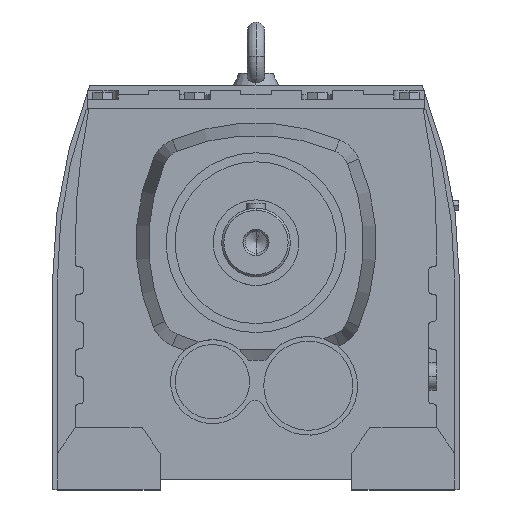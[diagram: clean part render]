
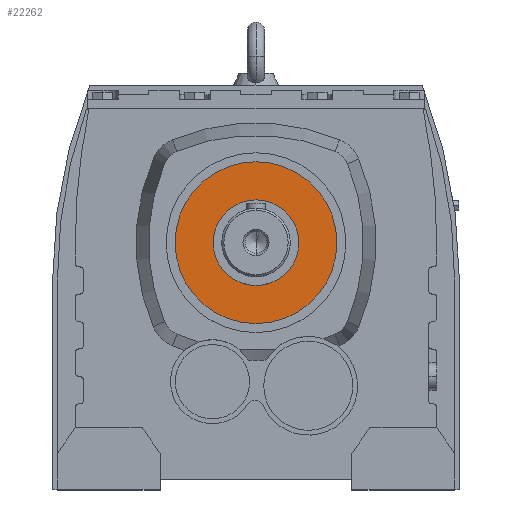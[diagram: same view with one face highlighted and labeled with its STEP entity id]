
A CAD part, top view. The second image highlights one B-rep face of the part: STEP entity #22262.
In plain terms, the highlighted planar face has unit normal (0, 0, 1).
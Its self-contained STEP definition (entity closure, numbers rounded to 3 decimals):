
#20385 = CYLINDRICAL_SURFACE('',#20386,59.063);
#20386 = AXIS2_PLACEMENT_3D('',#20387,#20388,#20389);
#20387 = CARTESIAN_POINT('',(0.,12.6,372.));
#20388 = DIRECTION('',(0.,0.,1.));
#20389 = DIRECTION('',(0.,-1.,0.));
#20415 = CYLINDRICAL_SURFACE('',#20416,59.063);
#20416 = AXIS2_PLACEMENT_3D('',#20417,#20418,#20419);
#20417 = CARTESIAN_POINT('',(0.,12.6,372.));
#20418 = DIRECTION('',(0.,0.,1.));
#20419 = DIRECTION('',(0.,-1.,0.));
#21412 = VERTEX_POINT('',#21413);
#21413 = CARTESIAN_POINT('',(0.,71.663,262.));
#21434 = VERTEX_POINT('',#21435);
#21435 = CARTESIAN_POINT('',(0.,-46.463,262.));
#21454 = EDGE_CURVE('',#21412,#21434,#21455,.T.);
#21455 = SURFACE_CURVE('',#21456,(#21461,#21467),.PCURVE_S1.);
#21456 = CIRCLE('',#21457,59.063);
#21457 = AXIS2_PLACEMENT_3D('',#21458,#21459,#21460);
#21458 = CARTESIAN_POINT('',(0.,12.6,262.));
#21459 = DIRECTION('',(0.,0.,-1.));
#21460 = DIRECTION('',(-1.,0.,0.));
#21461 = PCURVE('',#20385,#21462);
#21462 = DEFINITIONAL_REPRESENTATION('',(#21463),#21466);
#21463 = B_SPLINE_CURVE_WITH_KNOTS('',1,(#21464,#21465),.UNSPECIFIED.,
  .F.,.F.,(2,2),(1.571,4.712),
  .PIECEWISE_BEZIER_KNOTS.);
#21464 = CARTESIAN_POINT('',(3.142,-110.));
#21465 = CARTESIAN_POINT('',(0.,-110.));
#21466 = ( GEOMETRIC_REPRESENTATION_CONTEXT(2) 
PARAMETRIC_REPRESENTATION_CONTEXT() REPRESENTATION_CONTEXT('2D SPACE',''
  ) );
#21467 = PCURVE('',#21468,#21473);
#21468 = PLANE('',#21469);
#21469 = AXIS2_PLACEMENT_3D('',#21470,#21471,#21472);
#21470 = CARTESIAN_POINT('',(-25.478,3.078,262.));
#21471 = DIRECTION('',(0.,0.,-1.));
#21472 = DIRECTION('',(-1.,0.,0.));
#21473 = DEFINITIONAL_REPRESENTATION('',(#21474),#21478);
#21474 = CIRCLE('',#21475,59.063);
#21475 = AXIS2_PLACEMENT_2D('',#21476,#21477);
#21476 = CARTESIAN_POINT('',(-25.478,9.522));
#21477 = DIRECTION('',(1.,0.));
#21478 = ( GEOMETRIC_REPRESENTATION_CONTEXT(2) 
PARAMETRIC_REPRESENTATION_CONTEXT() REPRESENTATION_CONTEXT('2D SPACE',''
  ) );
#21483 = EDGE_CURVE('',#21434,#21412,#21484,.T.);
#21484 = SURFACE_CURVE('',#21485,(#21490,#21496),.PCURVE_S1.);
#21485 = CIRCLE('',#21486,59.063);
#21486 = AXIS2_PLACEMENT_3D('',#21487,#21488,#21489);
#21487 = CARTESIAN_POINT('',(0.,12.6,262.));
#21488 = DIRECTION('',(0.,0.,-1.));
#21489 = DIRECTION('',(-1.,0.,0.));
#21490 = PCURVE('',#20415,#21491);
#21491 = DEFINITIONAL_REPRESENTATION('',(#21492),#21495);
#21492 = B_SPLINE_CURVE_WITH_KNOTS('',1,(#21493,#21494),.UNSPECIFIED.,
  .F.,.F.,(2,2),(4.712,7.854),
  .PIECEWISE_BEZIER_KNOTS.);
#21493 = CARTESIAN_POINT('',(6.283,-110.));
#21494 = CARTESIAN_POINT('',(3.142,-110.));
#21495 = ( GEOMETRIC_REPRESENTATION_CONTEXT(2) 
PARAMETRIC_REPRESENTATION_CONTEXT() REPRESENTATION_CONTEXT('2D SPACE',''
  ) );
#21496 = PCURVE('',#21468,#21497);
#21497 = DEFINITIONAL_REPRESENTATION('',(#21498),#21502);
#21498 = CIRCLE('',#21499,59.063);
#21499 = AXIS2_PLACEMENT_2D('',#21500,#21501);
#21500 = CARTESIAN_POINT('',(-25.478,9.522));
#21501 = DIRECTION('',(1.,0.));
#21502 = ( GEOMETRIC_REPRESENTATION_CONTEXT(2) 
PARAMETRIC_REPRESENTATION_CONTEXT() REPRESENTATION_CONTEXT('2D SPACE',''
  ) );
#22262 = ADVANCED_FACE('',(#22263,#22267),#21468,.F.);
#22263 = FACE_BOUND('',#22264,.T.);
#22264 = EDGE_LOOP('',(#22265,#22266));
#22265 = ORIENTED_EDGE('',*,*,#21483,.F.);
#22266 = ORIENTED_EDGE('',*,*,#21454,.F.);
#22267 = FACE_BOUND('',#22268,.T.);
#22268 = EDGE_LOOP('',(#22269,#22303));
#22269 = ORIENTED_EDGE('',*,*,#22270,.F.);
#22270 = EDGE_CURVE('',#22271,#22273,#22275,.T.);
#22271 = VERTEX_POINT('',#22272);
#22272 = CARTESIAN_POINT('',(0.,-18.65,262.));
#22273 = VERTEX_POINT('',#22274);
#22274 = CARTESIAN_POINT('',(0.,43.85,262.));
#22275 = SURFACE_CURVE('',#22276,(#22281,#22292),.PCURVE_S1.);
#22276 = CIRCLE('',#22277,31.25);
#22277 = AXIS2_PLACEMENT_3D('',#22278,#22279,#22280);
#22278 = CARTESIAN_POINT('',(0.,12.6,262.));
#22279 = DIRECTION('',(0.,0.,1.));
#22280 = DIRECTION('',(-1.,0.,0.));
#22281 = PCURVE('',#21468,#22282);
#22282 = DEFINITIONAL_REPRESENTATION('',(#22283),#22291);
#22283 = ( BOUNDED_CURVE() B_SPLINE_CURVE(2,(#22284,#22285,#22286,#22287
    ,#22288,#22289,#22290),.UNSPECIFIED.,.F.,.F.) 
B_SPLINE_CURVE_WITH_KNOTS((1,2,2,2,2,1),(-2.094,0.,
    2.094,4.189,6.283,8.378),
.UNSPECIFIED.) CURVE() GEOMETRIC_REPRESENTATION_ITEM() 
RATIONAL_B_SPLINE_CURVE((1.,0.5,1.,0.5,1.,0.5,1.)) REPRESENTATION_ITEM(
  '') );
#22284 = CARTESIAN_POINT('',(5.772,9.522));
#22285 = CARTESIAN_POINT('',(5.772,-44.604));
#22286 = CARTESIAN_POINT('',(-41.103,-17.541));
#22287 = CARTESIAN_POINT('',(-87.978,9.522));
#22288 = CARTESIAN_POINT('',(-41.103,36.586));
#22289 = CARTESIAN_POINT('',(5.772,63.649));
#22290 = CARTESIAN_POINT('',(5.772,9.522));
#22291 = ( GEOMETRIC_REPRESENTATION_CONTEXT(2) 
PARAMETRIC_REPRESENTATION_CONTEXT() REPRESENTATION_CONTEXT('2D SPACE',''
  ) );
#22292 = PCURVE('',#22293,#22298);
#22293 = CYLINDRICAL_SURFACE('',#22294,31.25);
#22294 = AXIS2_PLACEMENT_3D('',#22295,#22296,#22297);
#22295 = CARTESIAN_POINT('',(0.,12.6,372.));
#22296 = DIRECTION('',(0.,0.,1.));
#22297 = DIRECTION('',(0.,-1.,0.));
#22298 = DEFINITIONAL_REPRESENTATION('',(#22299),#22302);
#22299 = B_SPLINE_CURVE_WITH_KNOTS('',1,(#22300,#22301),.UNSPECIFIED.,
  .F.,.F.,(2,2),(1.571,4.712),
  .PIECEWISE_BEZIER_KNOTS.);
#22300 = CARTESIAN_POINT('',(0.,-110.));
#22301 = CARTESIAN_POINT('',(3.142,-110.));
#22302 = ( GEOMETRIC_REPRESENTATION_CONTEXT(2) 
PARAMETRIC_REPRESENTATION_CONTEXT() REPRESENTATION_CONTEXT('2D SPACE',''
  ) );
#22303 = ORIENTED_EDGE('',*,*,#22304,.F.);
#22304 = EDGE_CURVE('',#22273,#22271,#22305,.T.);
#22305 = SURFACE_CURVE('',#22306,(#22311,#22322),.PCURVE_S1.);
#22306 = CIRCLE('',#22307,31.25);
#22307 = AXIS2_PLACEMENT_3D('',#22308,#22309,#22310);
#22308 = CARTESIAN_POINT('',(0.,12.6,262.));
#22309 = DIRECTION('',(0.,0.,1.));
#22310 = DIRECTION('',(-1.,0.,0.));
#22311 = PCURVE('',#21468,#22312);
#22312 = DEFINITIONAL_REPRESENTATION('',(#22313),#22321);
#22313 = ( BOUNDED_CURVE() B_SPLINE_CURVE(2,(#22314,#22315,#22316,#22317
    ,#22318,#22319,#22320),.UNSPECIFIED.,.F.,.F.) 
B_SPLINE_CURVE_WITH_KNOTS((1,2,2,2,2,1),(-2.094,0.,
    2.094,4.189,6.283,8.378),
.UNSPECIFIED.) CURVE() GEOMETRIC_REPRESENTATION_ITEM() 
RATIONAL_B_SPLINE_CURVE((1.,0.5,1.,0.5,1.,0.5,1.)) REPRESENTATION_ITEM(
  '') );
#22314 = CARTESIAN_POINT('',(5.772,9.522));
#22315 = CARTESIAN_POINT('',(5.772,-44.604));
#22316 = CARTESIAN_POINT('',(-41.103,-17.541));
#22317 = CARTESIAN_POINT('',(-87.978,9.522));
#22318 = CARTESIAN_POINT('',(-41.103,36.586));
#22319 = CARTESIAN_POINT('',(5.772,63.649));
#22320 = CARTESIAN_POINT('',(5.772,9.522));
#22321 = ( GEOMETRIC_REPRESENTATION_CONTEXT(2) 
PARAMETRIC_REPRESENTATION_CONTEXT() REPRESENTATION_CONTEXT('2D SPACE',''
  ) );
#22322 = PCURVE('',#22323,#22328);
#22323 = CYLINDRICAL_SURFACE('',#22324,31.25);
#22324 = AXIS2_PLACEMENT_3D('',#22325,#22326,#22327);
#22325 = CARTESIAN_POINT('',(0.,12.6,372.));
#22326 = DIRECTION('',(0.,0.,1.));
#22327 = DIRECTION('',(0.,-1.,0.));
#22328 = DEFINITIONAL_REPRESENTATION('',(#22329),#22332);
#22329 = B_SPLINE_CURVE_WITH_KNOTS('',1,(#22330,#22331),.UNSPECIFIED.,
  .F.,.F.,(2,2),(4.712,7.854),
  .PIECEWISE_BEZIER_KNOTS.);
#22330 = CARTESIAN_POINT('',(3.142,-110.));
#22331 = CARTESIAN_POINT('',(6.283,-110.));
#22332 = ( GEOMETRIC_REPRESENTATION_CONTEXT(2) 
PARAMETRIC_REPRESENTATION_CONTEXT() REPRESENTATION_CONTEXT('2D SPACE',''
  ) );
